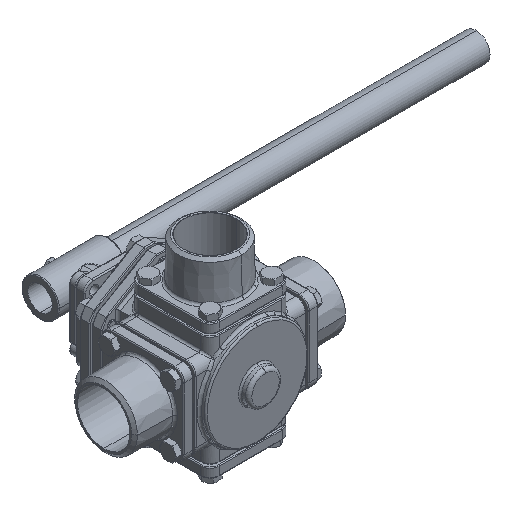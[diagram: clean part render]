
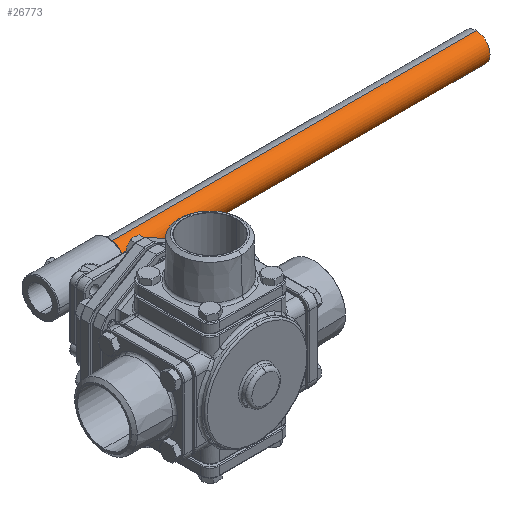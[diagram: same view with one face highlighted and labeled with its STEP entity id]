
A CAD part, isometric view. The second image highlights one B-rep face of the part: STEP entity #26773.
In plain terms, the highlighted cylindrical face has radius 17.15 mm (diameter 34.3 mm), a partial arc.
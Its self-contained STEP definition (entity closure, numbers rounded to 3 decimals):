
#2128 = EDGE_CURVE ( 'NONE', #11959, #14381, #17246, .T. ) ;
#2519 = EDGE_CURVE ( 'NONE', #14381, #14092, #10981, .T. ) ;
#2521 = EDGE_CURVE ( 'NONE', #11959, #11966, #10984, .T. ) ;
#2538 = EDGE_LOOP ( 'NONE', ( #26059, #26060, #26061, #26062 ) ) ;
#6152 = CARTESIAN_POINT ( 'NONE',  ( 500., 169., -17.15 ) ) ;
#6153 = DIRECTION ( 'NONE',  ( -1., 0., 0. ) ) ;
#6157 = DIRECTION ( 'NONE',  ( -1., 0., 0. ) ) ;
#6161 = CARTESIAN_POINT ( 'NONE',  ( 500., 169., 17.15 ) ) ;
#10981 = LINE ( 'NONE', #6152, #10983 ) ;
#10983 = VECTOR ( 'NONE', #6153, 1000. ) ;
#10984 = LINE ( 'NONE', #6161, #10986 ) ;
#10986 = VECTOR ( 'NONE', #6157, 1000. ) ;
#11959 = VERTEX_POINT ( 'NONE', #25172 ) ;
#11966 = VERTEX_POINT ( 'NONE', #25179 ) ;
#14092 = VERTEX_POINT ( 'NONE', #18224 ) ;
#14381 = VERTEX_POINT ( 'NONE', #18391 ) ;
#15909 = AXIS2_PLACEMENT_3D ( 'NONE', #21174, #21175, #21176 ) ;
#16718 = AXIS2_PLACEMENT_3D ( 'NONE', #35443, #35444, #35442 ) ;
#17246 = CIRCLE ( 'NONE', #17867, 17.15 ) ;
#17867 = AXIS2_PLACEMENT_3D ( 'NONE', #18444, #18446, #18448 ) ;
#18224 = CARTESIAN_POINT ( 'NONE',  ( 42.5, 169., -17.15 ) ) ;
#18391 = CARTESIAN_POINT ( 'NONE',  ( 500., 169., -17.15 ) ) ;
#18444 = CARTESIAN_POINT ( 'NONE',  ( 500., 169., 0. ) ) ;
#18446 = DIRECTION ( 'NONE',  ( 1., 0., 0. ) ) ;
#18448 = DIRECTION ( 'NONE',  ( 0., 0., -1. ) ) ;
#21174 = CARTESIAN_POINT ( 'NONE',  ( 42.5, 169., 0. ) ) ;
#21175 = DIRECTION ( 'NONE',  ( 1., 0., 0. ) ) ;
#21176 = DIRECTION ( 'NONE',  ( 0., -1., 0. ) ) ;
#23211 = CYLINDRICAL_SURFACE ( 'NONE', #16718, 17.15 ) ;
#23228 = FACE_OUTER_BOUND ( 'NONE', #2538, .T. ) ;
#25172 = CARTESIAN_POINT ( 'NONE',  ( 500., 169., 17.15 ) ) ;
#25179 = CARTESIAN_POINT ( 'NONE',  ( 42.5, 169., 17.15 ) ) ;
#26059 = ORIENTED_EDGE ( 'NONE', *, *, #2519, .F. ) ;
#26060 = ORIENTED_EDGE ( 'NONE', *, *, #2128, .F. ) ;
#26061 = ORIENTED_EDGE ( 'NONE', *, *, #2521, .T. ) ;
#26062 = ORIENTED_EDGE ( 'NONE', *, *, #26222, .T. ) ;
#26222 = EDGE_CURVE ( 'NONE', #11966, #14092, #32560, .T. ) ;
#26773 = ADVANCED_FACE ( 'NONE', ( #23228 ), #23211, .T. ) ;
#32560 = CIRCLE ( 'NONE', #15909, 17.15 ) ;
#35442 = DIRECTION ( 'NONE',  ( 0., 0., 1. ) ) ;
#35443 = CARTESIAN_POINT ( 'NONE',  ( 500., 169., 0. ) ) ;
#35444 = DIRECTION ( 'NONE',  ( -1., 0., 0. ) ) ;
